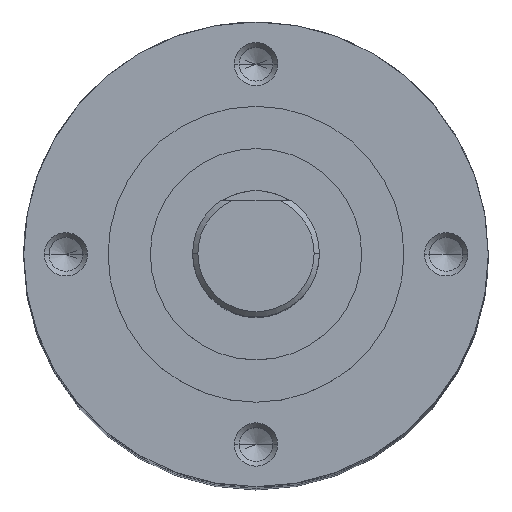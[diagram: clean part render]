
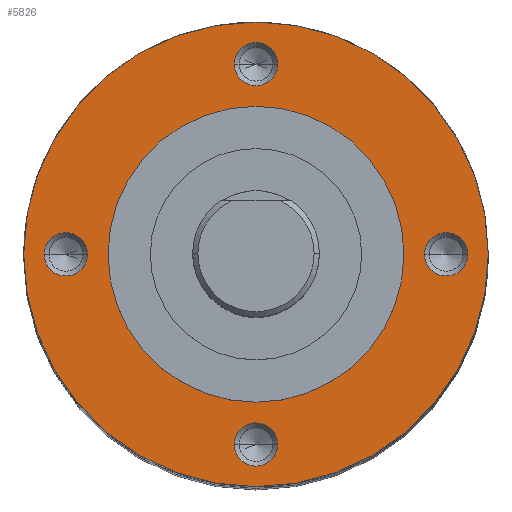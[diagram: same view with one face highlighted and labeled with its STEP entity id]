
A CAD part, top view. The second image highlights one B-rep face of the part: STEP entity #5826.
In plain terms, the highlighted planar face has unit normal (0, 0, 1).
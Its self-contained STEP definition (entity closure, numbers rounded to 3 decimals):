
#178 = DIRECTION ( 'NONE',  ( 1., 0., 0. ) ) ;
#179 = DIRECTION ( 'NONE',  ( 0., 0., 1. ) ) ;
#181 = CIRCLE ( 'NONE', #187, 7. ) ;
#186 = CARTESIAN_POINT ( 'NONE',  ( 0., 0., 42.5 ) ) ;
#187 = AXIS2_PLACEMENT_3D ( 'NONE', #186, #179, #178 ) ;
#208 = CARTESIAN_POINT ( 'NONE',  ( 7., 0., 42.5 ) ) ;
#235 = CARTESIAN_POINT ( 'NONE',  ( 10.995, 0., 42.5 ) ) ;
#255 = CARTESIAN_POINT ( 'NONE',  ( -10.995, 0., 42.5 ) ) ;
#1695 = CARTESIAN_POINT ( 'NONE',  ( 10.025, 0., 42.5 ) ) ;
#2164 = CARTESIAN_POINT ( 'NONE',  ( -7., 0., 42.5 ) ) ;
#2245 = CIRCLE ( 'NONE', #2270, 10.995 ) ;
#2256 = CARTESIAN_POINT ( 'NONE',  ( 0., 0., 42.5 ) ) ;
#2270 = AXIS2_PLACEMENT_3D ( 'NONE', #2256, #2275, #2274 ) ;
#2274 = DIRECTION ( 'NONE',  ( 1., 0., 0. ) ) ;
#2275 = DIRECTION ( 'NONE',  ( 0., 0., 1. ) ) ;
#2328 = VERTEX_POINT ( 'NONE', #5837 ) ;
#2486 = VERTEX_POINT ( 'NONE', #5951 ) ;
#2506 = EDGE_CURVE ( 'NONE', #2508, #2328, #6338, .T. ) ;
#2508 = VERTEX_POINT ( 'NONE', #6351 ) ;
#2518 = EDGE_CURVE ( 'NONE', #2661, #2674, #6044, .T. ) ;
#2553 = EDGE_CURVE ( 'NONE', #2597, #2599, #6392, .T. ) ;
#2559 = VERTEX_POINT ( 'NONE', #6410 ) ;
#2584 = EDGE_CURVE ( 'NONE', #2559, #2486, #6568, .T. ) ;
#2597 = VERTEX_POINT ( 'NONE', #6517 ) ;
#2599 = VERTEX_POINT ( 'NONE', #6621 ) ;
#2661 = VERTEX_POINT ( 'NONE', #6173 ) ;
#2674 = VERTEX_POINT ( 'NONE', #1695 ) ;
#2807 = VERTEX_POINT ( 'NONE', #2164 ) ;
#2816 = EDGE_CURVE ( 'NONE', #2890, #2888, #2245, .T. ) ;
#2888 = VERTEX_POINT ( 'NONE', #255 ) ;
#2890 = VERTEX_POINT ( 'NONE', #235 ) ;
#2923 = EDGE_CURVE ( 'NONE', #2924, #2807, #181, .T. ) ;
#2924 = VERTEX_POINT ( 'NONE', #208 ) ;
#3751 = EDGE_LOOP ( 'NONE', ( #4641, #4659 ) ) ;
#4635 = EDGE_LOOP ( 'NONE', ( #4661, #4786 ) ) ;
#4641 = ORIENTED_EDGE ( 'NONE', *, *, #4738, .T. ) ;
#4659 = ORIENTED_EDGE ( 'NONE', *, *, #2816, .T. ) ;
#4661 = ORIENTED_EDGE ( 'NONE', *, *, #4764, .F. ) ;
#4738 = EDGE_CURVE ( 'NONE', #2888, #2890, #4984, .T. ) ;
#4764 = EDGE_CURVE ( 'NONE', #2807, #2924, #4959, .T. ) ;
#4786 = ORIENTED_EDGE ( 'NONE', *, *, #2923, .F. ) ;
#4954 = DIRECTION ( 'NONE',  ( 0., 0., 1. ) ) ;
#4955 = CARTESIAN_POINT ( 'NONE',  ( 0., 0., 42.5 ) ) ;
#4956 = AXIS2_PLACEMENT_3D ( 'NONE', #4955, #4954, #5044 ) ;
#4959 = CIRCLE ( 'NONE', #4956, 7. ) ;
#4980 = CARTESIAN_POINT ( 'NONE',  ( 0., 0., 42.5 ) ) ;
#4981 = DIRECTION ( 'NONE',  ( 1., 0., 0. ) ) ;
#4982 = DIRECTION ( 'NONE',  ( 0., 0., 1. ) ) ;
#4983 = AXIS2_PLACEMENT_3D ( 'NONE', #4980, #4982, #4981 ) ;
#4984 = CIRCLE ( 'NONE', #4983, 10.995 ) ;
#5044 = DIRECTION ( 'NONE',  ( 1., 0., 0. ) ) ;
#5801 = ORIENTED_EDGE ( 'NONE', *, *, #5809, .F. ) ;
#5802 = EDGE_CURVE ( 'NONE', #2486, #2559, #6791, .T. ) ;
#5807 = EDGE_CURVE ( 'NONE', #2599, #2597, #6705, .T. ) ;
#5808 = ORIENTED_EDGE ( 'NONE', *, *, #2584, .F. ) ;
#5809 = EDGE_CURVE ( 'NONE', #2674, #2661, #6718, .T. ) ;
#5810 = ORIENTED_EDGE ( 'NONE', *, *, #5816, .F. ) ;
#5811 = ORIENTED_EDGE ( 'NONE', *, *, #2553, .F. ) ;
#5812 = ORIENTED_EDGE ( 'NONE', *, *, #5807, .F. ) ;
#5813 = EDGE_LOOP ( 'NONE', ( #5801, #5818 ) ) ;
#5814 = ORIENTED_EDGE ( 'NONE', *, *, #2506, .F. ) ;
#5815 = EDGE_LOOP ( 'NONE', ( #5820, #5808 ) ) ;
#5816 = EDGE_CURVE ( 'NONE', #2328, #2508, #6683, .T. ) ;
#5818 = ORIENTED_EDGE ( 'NONE', *, *, #2518, .F. ) ;
#5820 = ORIENTED_EDGE ( 'NONE', *, *, #5802, .F. ) ;
#5821 = EDGE_LOOP ( 'NONE', ( #5810, #5814 ) ) ;
#5822 = EDGE_LOOP ( 'NONE', ( #5812, #5811 ) ) ;
#5826 = ADVANCED_FACE ( 'NONE', ( #6743, #6741, #6728, #6740, #6744, #6736 ), #6750, .T. ) ;
#5837 = CARTESIAN_POINT ( 'NONE',  ( -7.975, 0., 42.5 ) ) ;
#5951 = CARTESIAN_POINT ( 'NONE',  ( 1.025, -9., 42.5 ) ) ;
#6042 = CARTESIAN_POINT ( 'NONE',  ( 9., 0., 42.5 ) ) ;
#6043 = AXIS2_PLACEMENT_3D ( 'NONE', #6042, #6063, #6062 ) ;
#6044 = CIRCLE ( 'NONE', #6043, 1.025 ) ;
#6062 = DIRECTION ( 'NONE',  ( 1., 0., 0. ) ) ;
#6063 = DIRECTION ( 'NONE',  ( 0., 0., 1. ) ) ;
#6173 = CARTESIAN_POINT ( 'NONE',  ( 7.975, 0., 42.5 ) ) ;
#6335 = CARTESIAN_POINT ( 'NONE',  ( -9., 0., 42.5 ) ) ;
#6338 = CIRCLE ( 'NONE', #6361, 1.025 ) ;
#6342 = DIRECTION ( 'NONE',  ( 1., 0., 0. ) ) ;
#6351 = CARTESIAN_POINT ( 'NONE',  ( -10.025, 0., 42.5 ) ) ;
#6361 = AXIS2_PLACEMENT_3D ( 'NONE', #6335, #6362, #6342 ) ;
#6362 = DIRECTION ( 'NONE',  ( 0., 0., 1. ) ) ;
#6366 = DIRECTION ( 'NONE',  ( 1., 0., 0. ) ) ;
#6368 = AXIS2_PLACEMENT_3D ( 'NONE', #6383, #6389, #6366 ) ;
#6383 = CARTESIAN_POINT ( 'NONE',  ( 0., 9., 42.5 ) ) ;
#6389 = DIRECTION ( 'NONE',  ( 0., 0., 1. ) ) ;
#6392 = CIRCLE ( 'NONE', #6368, 1.025 ) ;
#6410 = CARTESIAN_POINT ( 'NONE',  ( -1.025, -9., 42.5 ) ) ;
#6517 = CARTESIAN_POINT ( 'NONE',  ( -1.025, 9., 42.5 ) ) ;
#6561 = DIRECTION ( 'NONE',  ( 1., 0., 0. ) ) ;
#6568 = CIRCLE ( 'NONE', #6571, 1.025 ) ;
#6569 = DIRECTION ( 'NONE',  ( 0., 0., 1. ) ) ;
#6571 = AXIS2_PLACEMENT_3D ( 'NONE', #6575, #6569, #6561 ) ;
#6575 = CARTESIAN_POINT ( 'NONE',  ( 0., -9., 42.5 ) ) ;
#6621 = CARTESIAN_POINT ( 'NONE',  ( 1.025, 9., 42.5 ) ) ;
#6683 = CIRCLE ( 'NONE', #6697, 1.025 ) ;
#6686 = DIRECTION ( 'NONE',  ( 0., 0., 1. ) ) ;
#6692 = DIRECTION ( 'NONE',  ( 1., 0., 0. ) ) ;
#6693 = CARTESIAN_POINT ( 'NONE',  ( -9., 0., 42.5 ) ) ;
#6697 = AXIS2_PLACEMENT_3D ( 'NONE', #6693, #6686, #6692 ) ;
#6705 = CIRCLE ( 'NONE', #6713, 1.025 ) ;
#6709 = CARTESIAN_POINT ( 'NONE',  ( 0., 9., 42.5 ) ) ;
#6710 = CARTESIAN_POINT ( 'NONE',  ( 9., 0., 42.5 ) ) ;
#6711 = DIRECTION ( 'NONE',  ( 1., 0., 0. ) ) ;
#6712 = DIRECTION ( 'NONE',  ( 0., 0., 1. ) ) ;
#6713 = AXIS2_PLACEMENT_3D ( 'NONE', #6709, #6712, #6711 ) ;
#6716 = DIRECTION ( 'NONE',  ( 0., 0., 1. ) ) ;
#6717 = AXIS2_PLACEMENT_3D ( 'NONE', #6710, #6716, #6719 ) ;
#6718 = CIRCLE ( 'NONE', #6717, 1.025 ) ;
#6719 = DIRECTION ( 'NONE',  ( 1., 0., 0. ) ) ;
#6728 = FACE_BOUND ( 'NONE', #5815, .T. ) ;
#6736 = FACE_BOUND ( 'NONE', #4635, .T. ) ;
#6740 = FACE_BOUND ( 'NONE', #5821, .T. ) ;
#6741 = FACE_BOUND ( 'NONE', #5813, .T. ) ;
#6743 = FACE_BOUND ( 'NONE', #5822, .T. ) ;
#6744 = FACE_OUTER_BOUND ( 'NONE', #3751, .T. ) ;
#6747 = DIRECTION ( 'NONE',  ( 1., 0., 0. ) ) ;
#6749 = DIRECTION ( 'NONE',  ( 0., 0., 1. ) ) ;
#6750 = PLANE ( 'NONE',  #6751 ) ;
#6751 = AXIS2_PLACEMENT_3D ( 'NONE', #6752, #6749, #6747 ) ;
#6752 = CARTESIAN_POINT ( 'NONE',  ( 0., 0., 42.5 ) ) ;
#6791 = CIRCLE ( 'NONE', #6813, 1.025 ) ;
#6813 = AXIS2_PLACEMENT_3D ( 'NONE', #6830, #6829, #6828 ) ;
#6828 = DIRECTION ( 'NONE',  ( 1., 0., 0. ) ) ;
#6829 = DIRECTION ( 'NONE',  ( 0., 0., 1. ) ) ;
#6830 = CARTESIAN_POINT ( 'NONE',  ( 0., -9., 42.5 ) ) ;
